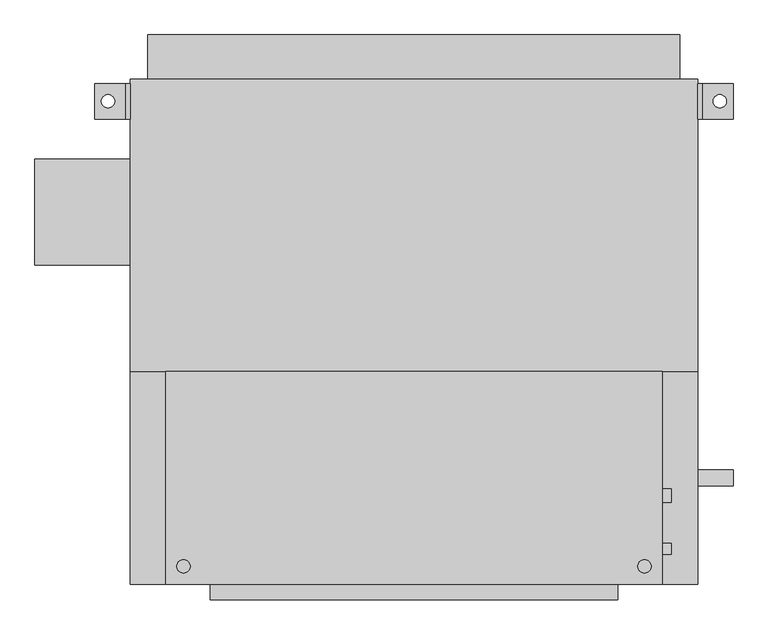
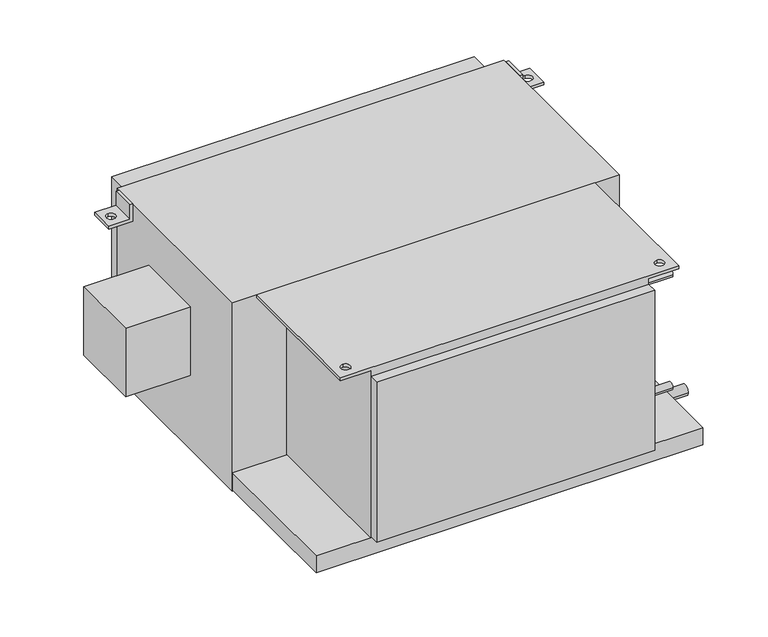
"""IFC4 building model written with IfcOpenShell, lengths in millimetres: proxy geometry, Concealed_High_Capacity_Horizontal_Fan_Coil_Unit_With_Plenum_-_42DCA_-_CARRIER_-_4-Pipe_RH_2022 : Size 10 - 277v/60Hz/1Ph - 6/2 Coil."""

from ifc_helpers import new_model, si_unit, point, frame, frame_2d, origin, place, context, project, spatial, polyline, circle_curve, trimmed, segment, composite_curve, outline, extrude, source, transform, mapped, element, save
from ifc_brep_helpers import plane_surface, revolved_surface, advanced_brep


def mechanical_equipment_762c0633(model_context):
    return source(origin(), model_context, "Body", "SolidModel", [
        advanced_brep(
        [(-203.2, -85.725, 0.0), (-203.2, -390.525, 0.0), (508.0, -390.525, 0.0), (508.0, -85.725, 0.0), (-177.8, -374.65, 0.0), (-177.8, -355.6, 0.0), (482.6, -374.65, 0.0), (482.6, -355.6, 0.0), (444.5, -85.725, -377.825), (444.5, -390.525, -377.825), (-139.7, -390.525, -377.825), (-139.7, -85.725, -377.825), (-139.7, -85.725, -6.35), (-203.2, -85.725, -6.35), (508.0, -85.725, -6.35), (444.5, -85.725, -6.35), (-139.7, -390.525, -6.35), (444.5, -390.525, -6.35), (508.0, -390.525, -6.35), (-203.2, -390.525, -6.35), (-177.8, -355.6, -6.35), (-177.8, -374.65, -6.35), (482.6, -355.6, -6.35), (482.6, -374.65, -6.35)],
        [
            (0, 1),
            (1, 2),
            (2, 3),
            (3, 0),
            (4, 5, circle_curve(frame((-177.8, -365.125, 0.0), z_axis=(0.0, 0.0, -1.0), x_axis=(0.0, 1.0, 0.0)), 9.525)),
            (5, 4, circle_curve(frame((-177.8, -365.125, 0.0), z_axis=(0.0, 0.0, -1.0), x_axis=(0.0, 1.0, 0.0)), 9.525)),
            (6, 7, circle_curve(frame((482.6, -365.125, 0.0), z_axis=(0.0, 0.0, -1.0), x_axis=(0.0, 1.0, 0.0)), 9.525)),
            (7, 6, circle_curve(frame((482.6, -365.125, 0.0), z_axis=(0.0, 0.0, -1.0), x_axis=(0.0, 1.0, 0.0)), 9.525)),
            (8, 9),
            (9, 10),
            (10, 11),
            (11, 8),
            (11, 12),
            (12, 13),
            (13, 0),
            (3, 14),
            (14, 15),
            (15, 8),
            (10, 16),
            (16, 12),
            (9, 17),
            (17, 18),
            (18, 2),
            (1, 19),
            (19, 16),
            (15, 17),
            (19, 13),
            (20, 21, circle_curve(frame((-177.8, -365.125, -6.35), z_axis=(0.0, 0.0, 1.0), x_axis=(0.0, 1.0, 0.0)), 9.525)),
            (21, 20, circle_curve(frame((-177.8, -365.125, -6.35), z_axis=(0.0, 0.0, 1.0), x_axis=(0.0, 1.0, 0.0)), 9.525)),
            (14, 18),
            (22, 23, circle_curve(frame((482.6, -365.125, -6.35), z_axis=(0.0, 0.0, 1.0), x_axis=(0.0, 1.0, 0.0)), 9.525)),
            (23, 22, circle_curve(frame((482.6, -365.125, -6.35), z_axis=(0.0, 0.0, 1.0), x_axis=(0.0, 1.0, 0.0)), 9.525)),
            (4, 21),
            (20, 5),
            (6, 23),
            (22, 7),
        ],
        [
            plane_surface(frame((-139.7, -85.725, 0.0), z_axis=(0.0, 0.0, 1.0), x_axis=(-1.0, 0.0, 0.0))),
            plane_surface(frame((-139.7, -85.725, -377.825), z_axis=(0.0, 0.0, -1.0), x_axis=(1.0, 0.0, 0.0))),
            plane_surface(frame((444.5, -85.725, 0.0), z_axis=(0.0, 1.0, 0.0), x_axis=(0.0, 0.0, -1.0))),
            plane_surface(frame((-139.7, -85.725, 0.0), z_axis=(-1.0, 0.0, 0.0), x_axis=(0.0, 0.0, -1.0))),
            plane_surface(frame((-139.7, -390.525, 0.0), z_axis=(0.0, -1.0, 0.0), x_axis=(0.0, 0.0, -1.0))),
            plane_surface(frame((444.5, -390.525, 0.0), z_axis=(1.0, 0.0, 0.0), x_axis=(0.0, 0.0, -1.0))),
            plane_surface(frame((-203.2, -85.725, -6.35), z_axis=(0.0, 0.0, -1.0), x_axis=(0.0, 1.0, 0.0))),
            plane_surface(frame((-203.2, -85.725, 0.0), z_axis=(-1.0, 0.0, 0.0), x_axis=(0.0, 0.0, -1.0))),
            plane_surface(frame((508.0, -390.525, 0.0), z_axis=(1.0, 0.0, 0.0), x_axis=(0.0, 0.0, -1.0))),
            revolved_surface(polyline([(-177.8, -355.6, -6.35), (-177.8, -355.6, 0.0)]), (-177.8, -365.125, 0.0), (0.0, 0.0, -1.0)),
            revolved_surface(polyline([(482.6, -355.6, -6.35), (482.6, -355.6, 0.0)]), (482.6, -365.125, 0.0), (0.0, 0.0, -1.0)),
        ],
        [
            (0, [[1, 2, 3, 4], [5, 6], [7, 8]]),
            (1, [[9, 10, 11, 12]]),
            (2, [[-12, 13, 14, 15, -4, 16, 17, 18]]),
            (3, [[-11, 19, 20, -13]]),
            (4, [[-10, 21, 22, 23, -2, 24, 25, -19]]),
            (5, [[-9, -18, 26, -21]]),
            (6, [[-14, -20, -25, 27], [28, 29]]),
            (6, [[30, -22, -26, -17], [31, 32]]),
            (7, [[-27, -24, -1, -15]]),
            (8, [[-30, -16, -3, -23]]),
            (9, [[33, -28, 34, -5]]),
            (9, [[-33, -6, -34, -29]]),
            (10, [[35, -31, 36, -7]]),
            (10, [[-35, -8, -36, -32]]),
        ],
    ),
        advanced_brep(
        [(-254.0, 327.025, -38.1), (-304.8, 327.025, -38.1), (-304.8, 327.025, -31.75), (-260.35, 327.025, -31.75), (-260.35, 327.025, 0.0), (-254.0, 327.025, 0.0), (-254.0, 276.225, -38.1), (-254.0, 276.225, 0.0), (-260.35, 276.225, 0.0), (-260.35, 276.225, -31.75), (-304.8, 276.225, -31.75), (-304.8, 276.225, -38.1), (-285.75, 292.1, -38.1), (-285.75, 311.15, -38.1), (-285.75, 311.15, -31.75), (-285.75, 292.1, -31.75)],
        [
            (0, 1),
            (1, 2),
            (2, 3),
            (3, 4),
            (4, 5),
            (5, 0),
            (6, 7),
            (7, 8),
            (8, 9),
            (9, 10),
            (10, 11),
            (11, 6),
            (0, 6),
            (11, 1),
            (12, 13, circle_curve(frame((-285.75, 301.625, -38.1), z_axis=(0.0, 0.0, 1.0), x_axis=(0.0, -1.0, 0.0)), 9.525)),
            (13, 12, circle_curve(frame((-285.75, 301.625, -38.1), z_axis=(0.0, 0.0, 1.0), x_axis=(0.0, -1.0, 0.0)), 9.525)),
            (10, 2),
            (9, 3),
            (14, 15, circle_curve(frame((-285.75, 301.625, -31.75), z_axis=(0.0, 0.0, -1.0), x_axis=(0.0, -1.0, 0.0)), 9.525)),
            (15, 14, circle_curve(frame((-285.75, 301.625, -31.75), z_axis=(0.0, 0.0, -1.0), x_axis=(0.0, -1.0, 0.0)), 9.525)),
            (8, 4),
            (7, 5),
            (14, 13),
            (12, 15),
        ],
        [
            plane_surface(frame((-254.0, 327.025, -38.1), z_axis=(0.0, 1.0, 0.0), x_axis=(-1.0, 0.0, 0.0))),
            plane_surface(frame((-254.0, 276.225, -38.1), z_axis=(0.0, -1.0, 0.0), x_axis=(1.0, 0.0, 0.0))),
            plane_surface(frame((-254.0, 327.025, -38.1), z_axis=(0.0, 0.0, -1.0), x_axis=(0.0, -1.0, 0.0))),
            plane_surface(frame((-304.8, 327.025, -38.1), z_axis=(-1.0, 0.0, 0.0), x_axis=(0.0, -1.0, 0.0))),
            plane_surface(frame((-304.8, 327.025, -31.75), z_axis=(0.0, 0.0, 1.0), x_axis=(0.0, -1.0, 0.0))),
            plane_surface(frame((-260.35, 327.025, -31.75), z_axis=(-1.0, 0.0, 0.0), x_axis=(0.0, -1.0, 0.0))),
            plane_surface(frame((-260.35, 327.025, 0.0), z_axis=(0.0, 0.0, 1.0), x_axis=(0.0, -1.0, 0.0))),
            plane_surface(frame((-254.0, 327.025, 0.0), z_axis=(1.0, 0.0, 0.0), x_axis=(0.0, -1.0, 0.0))),
            revolved_surface(polyline([(-285.75, 292.1, -38.1), (-285.75, 292.1, -31.75)]), (-285.75, 301.625, -31.75), (0.0, 0.0, -1.0)),
        ],
        [
            (0, [[1, 2, 3, 4, 5, 6]]),
            (1, [[7, 8, 9, 10, 11, 12]]),
            (2, [[-1, 13, -12, 14], [15, 16]]),
            (3, [[-2, -14, -11, 17]]),
            (4, [[-3, -17, -10, 18], [19, 20]]),
            (5, [[-4, -18, -9, 21]]),
            (6, [[-5, -21, -8, 22]]),
            (7, [[-6, -22, -7, -13]]),
            (8, [[23, -15, 24, -19]]),
            (8, [[-23, -20, -24, -16]]),
        ],
    ),
        advanced_brep(
        [(558.8, 327.025, -38.1), (558.8, 327.025, 0.0), (565.15, 327.025, 0.0), (565.15, 327.025, -31.75), (609.6, 327.025, -31.75), (609.6, 327.025, -38.1), (558.8, 276.225, -38.1), (609.6, 276.225, -38.1), (609.6, 276.225, -31.75), (565.15, 276.225, -31.75), (565.15, 276.225, 0.0), (558.8, 276.225, 0.0), (590.55, 311.15, -31.75), (590.55, 292.1, -31.75), (590.55, 292.1, -38.1), (590.55, 311.15, -38.1)],
        [
            (0, 1),
            (1, 2),
            (2, 3),
            (3, 4),
            (4, 5),
            (5, 0),
            (6, 7),
            (7, 8),
            (8, 9),
            (9, 10),
            (10, 11),
            (11, 6),
            (0, 6),
            (11, 1),
            (10, 2),
            (9, 3),
            (8, 4),
            (12, 13, circle_curve(frame((590.55, 301.625, -31.75), z_axis=(0.0, 0.0, -1.0), x_axis=(0.0, -1.0, 0.0)), 9.525)),
            (13, 12, circle_curve(frame((590.55, 301.625, -31.75), z_axis=(0.0, 0.0, -1.0), x_axis=(0.0, -1.0, 0.0)), 9.525)),
            (7, 5),
            (14, 15, circle_curve(frame((590.55, 301.625, -38.1), z_axis=(0.0, 0.0, 1.0), x_axis=(0.0, -1.0, 0.0)), 9.525)),
            (15, 14, circle_curve(frame((590.55, 301.625, -38.1), z_axis=(0.0, 0.0, 1.0), x_axis=(0.0, -1.0, 0.0)), 9.525)),
            (12, 15),
            (14, 13),
        ],
        [
            plane_surface(frame((-254.0, 327.025, -38.1), z_axis=(0.0, 1.0, 0.0), x_axis=(-1.0, 0.0, 0.0))),
            plane_surface(frame((-254.0, 276.225, -38.1), z_axis=(0.0, -1.0, 0.0), x_axis=(1.0, 0.0, 0.0))),
            plane_surface(frame((558.8, 327.025, -38.1), z_axis=(-1.0, 0.0, 0.0), x_axis=(0.0, -1.0, 0.0))),
            plane_surface(frame((558.8, 327.025, 0.0), z_axis=(0.0, 0.0, 1.0), x_axis=(0.0, -1.0, 0.0))),
            plane_surface(frame((565.15, 327.025, 0.0), z_axis=(1.0, 0.0, 0.0), x_axis=(0.0, -1.0, 0.0))),
            plane_surface(frame((565.15, 327.025, -31.75), z_axis=(0.0, 0.0, 1.0), x_axis=(0.0, -1.0, 0.0))),
            plane_surface(frame((609.6, 327.025, -31.75), z_axis=(1.0, 0.0, 0.0), x_axis=(0.0, -1.0, 0.0))),
            plane_surface(frame((609.6, 327.025, -38.1), z_axis=(0.0, 0.0, -1.0), x_axis=(0.0, -1.0, 0.0))),
            revolved_surface(polyline([(590.55, 292.1, -38.1), (590.55, 292.1, -31.75)]), (590.55, 301.625, -31.75), (0.0, 0.0, -1.0)),
        ],
        [
            (0, [[1, 2, 3, 4, 5, 6]]),
            (1, [[7, 8, 9, 10, 11, 12]]),
            (2, [[-1, 13, -12, 14]]),
            (3, [[-2, -14, -11, 15]]),
            (4, [[-3, -15, -10, 16]]),
            (5, [[-4, -16, -9, 17], [18, 19]]),
            (6, [[-5, -17, -8, 20]]),
            (7, [[-6, -20, -7, -13], [21, 22]]),
            (8, [[23, -21, 24, -18]]),
            (8, [[-23, -19, -24, -22]]),
        ],
    ),
        extrude(outline(polyline([(-228.6, 396.875), (533.4, 396.875), (533.4, 333.375), (-228.6, 333.375), (-228.6, 396.875)])), frame((0.0, 0.0, -377.825), z_axis=(0.0, 0.0, 1.0), x_axis=(1.0, 0.0, 0.0)), (0.0, 0.0, 1.0), 355.6),
        extrude(outline(composite_curve([segment(trimmed(circle_curve(frame_2d((-263.525, -76.2)), 9.525), [point((-254.0, -76.2))], [point((-273.05, -76.2))], False, "CARTESIAN"), True, "CONTINUOUS"), segment(trimmed(circle_curve(frame_2d((-263.525, -76.2)), 9.525), [point((-273.05, -76.2))], [point((-254.0, -76.2))], False, "CARTESIAN"), True, "CONTINUOUS")], self_intersect=False)), frame((444.5, 0.0, 0.0), z_axis=(1.0, 0.0, 0.0), x_axis=(0.0, 1.0, 0.0)), (0.0, 0.0, 1.0), 76.2),
        extrude(outline(composite_curve([segment(trimmed(circle_curve(frame_2d((-263.525, -301.625)), 9.525), [point((-254.0, -301.625))], [point((-273.05, -301.625))], False, "CARTESIAN"), True, "CONTINUOUS"), segment(trimmed(circle_curve(frame_2d((-263.525, -301.625)), 9.525), [point((-273.05, -301.625))], [point((-254.0, -301.625))], False, "CARTESIAN"), True, "CONTINUOUS")], self_intersect=False)), frame((444.5, 0.0, 0.0), z_axis=(1.0, 0.0, 0.0), x_axis=(0.0, 1.0, 0.0)), (0.0, 0.0, 1.0), 76.2),
        extrude(outline(composite_curve([segment(trimmed(circle_curve(frame_2d((-339.725, -50.8)), 7.9375), [point((-331.7875, -50.8))], [point((-347.6625, -50.8))], False, "CARTESIAN"), True, "CONTINUOUS"), segment(trimmed(circle_curve(frame_2d((-339.725, -50.8)), 7.9375), [point((-347.6625, -50.8))], [point((-331.7875, -50.8))], False, "CARTESIAN"), True, "CONTINUOUS")], self_intersect=False)), frame((444.5, 0.0, 0.0), z_axis=(1.0, 0.0, 0.0), x_axis=(0.0, 1.0, 0.0)), (0.0, 0.0, 1.0), 76.2),
        extrude(outline(composite_curve([segment(trimmed(circle_curve(frame_2d((-339.725, -301.625)), 7.9375), [point((-331.7875, -301.625))], [point((-347.6625, -301.625))], False, "CARTESIAN"), True, "CONTINUOUS"), segment(trimmed(circle_curve(frame_2d((-339.725, -301.625)), 7.9375), [point((-347.6625, -301.625))], [point((-331.7875, -301.625))], False, "CARTESIAN"), True, "CONTINUOUS")], self_intersect=False)), frame((444.5, 0.0, 0.0), z_axis=(1.0, 0.0, 0.0), x_axis=(0.0, 1.0, 0.0)), (0.0, 0.0, 1.0), 76.2),
        extrude(outline(composite_curve([segment(trimmed(circle_curve(frame_2d((-238.125, -403.225)), 11.1125), [point((-227.0125, -403.225))], [point((-249.2375, -403.225))], False, "CARTESIAN"), True, "CONTINUOUS"), segment(trimmed(circle_curve(frame_2d((-238.125, -403.225)), 11.1125), [point((-249.2375, -403.225))], [point((-227.0125, -403.225))], False, "CARTESIAN"), True, "CONTINUOUS")], self_intersect=False)), frame((558.8, 0.0, 0.0), z_axis=(1.0, 0.0, 0.0), x_axis=(0.0, 1.0, 0.0)), (0.0, 0.0, 1.0), 50.8),
        extrude(outline(polyline([(-390.525, 66.675), (-390.525, 219.075), (-254.0, 219.075), (-254.0, 66.675), (-390.525, 66.675)])), frame((0.0, 0.0, -254.0), z_axis=(0.0, 0.0, 1.0), x_axis=(1.0, 0.0, 0.0)), (0.0, 0.0, 1.0), 152.4),
        extrude(outline(polyline([(444.5, -412.75), (-139.7, -412.75), (-139.7, -390.525), (444.5, -390.525), (444.5, -412.75)])), frame((0.0, 0.0, -374.65), z_axis=(0.0, 0.0, 1.0), x_axis=(1.0, 0.0, 0.0)), (0.0, 0.0, 1.0), 355.6),
        extrude(outline(polyline([(558.8, -85.725), (-254.0, -85.725), (-254.0, 333.375), (558.8, 333.375), (558.8, -85.725)])), frame((0.0, 0.0, -419.1), z_axis=(0.0, 0.0, 1.0), x_axis=(1.0, 0.0, 0.0)), (0.0, 0.0, 1.0), 419.1),
        extrude(outline(polyline([(558.8, -85.725), (558.8, -390.525), (-254.0, -390.525), (-254.0, -85.725), (558.8, -85.725)])), frame((0.0, 0.0, -415.925), z_axis=(0.0, 0.0, 1.0), x_axis=(1.0, 0.0, 0.0)), (0.0, 0.0, 1.0), 38.1),
    ])


if __name__ == "__main__":
    model = new_model("IFC4")
    model_context = context("Model", 3, world=origin())
    ifc_project = project(units=[si_unit("LENGTHUNIT", "METRE", prefix="MILLI")], contexts=[model_context])
    site = spatial("IfcSite", under=ifc_project)
    building = spatial("IfcBuilding", under=site)
    placement = place(None, origin())
    mechanical_equipment_shape = mechanical_equipment_762c0633(model_context)
    element("IfcBuildingElementProxy", 1, Name="Concealed_High_Capacity_Horizontal_Fan_Coil_Unit_With_Plenum_-_42DCA_-_CARRIER_-_4-Pipe_RH_2022 : Size 10 - 277v/60Hz/1Ph - 6/2 Coil", ObjectType="Concealed_High_Capacity_Horizontal_Fan_Coil_Unit_With_Plenum_-_42DCA_-_CARRIER_-_4-Pipe_RH_2022 : Size 10 - 277v/60Hz/1Ph - 6/2 Coil", at=placement, inside=building, context=model_context, shape_type="MappedRepresentation", body=[
        mapped(mechanical_equipment_shape, transform((0.0, 0.0, 0.0), x_axis=(1.0, 0.0, 0.0), y_axis=(0.0, 1.0, 0.0), z_axis=(0.0, 0.0, 1.0))),
    ])
    save(model, "model.ifc")
